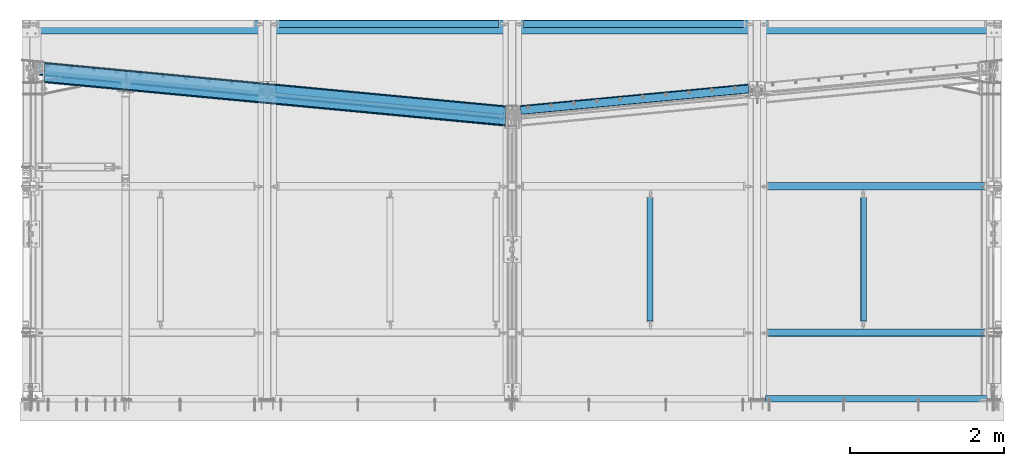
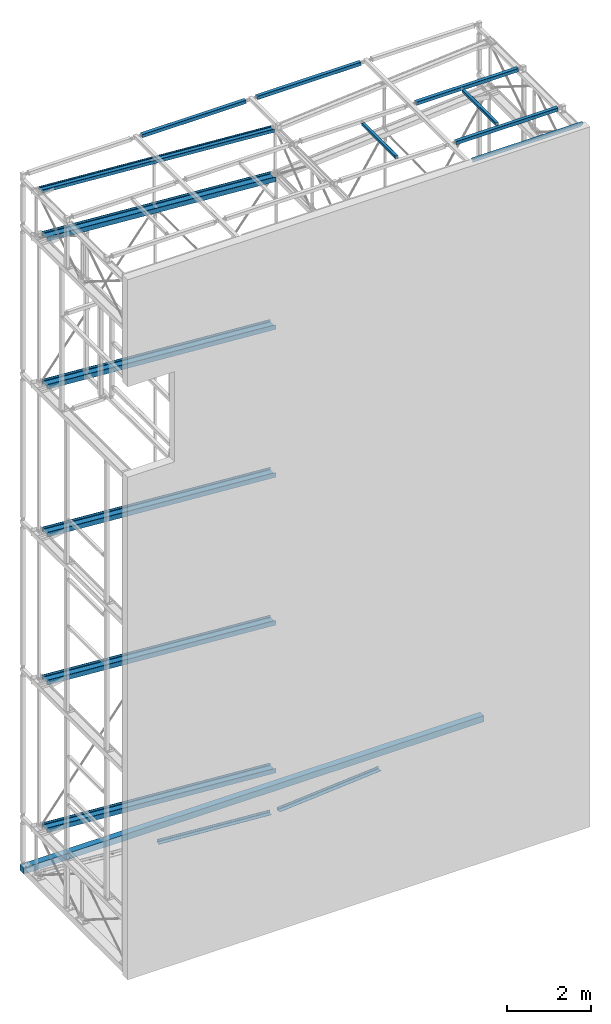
# One storey, part 37 of 271: 16 beams, 16 elements without a shape of their own.
"""IFC2X3 building model written with IfcOpenShell, lengths in millimetres."""

from ifc_helpers import new_model, si_unit, frame, origin_with_axes, origin_2d_with_axis, place, context, subcontext, project, spatial, rectangle, hollow_rectangle, i_section, l_section, extrude, clip, halfspace, material, type_object, element, aggregate, save


model = new_model("IFC2X3")

# Units and contexts
model_context = context("Model", 3, precision=1e-05, world=origin_with_axes())
body_context = subcontext(model_context, "Body", "Model", "MODEL_VIEW")
ifc_project = project(units=[si_unit("LENGTHUNIT", "METRE", prefix="MILLI"), si_unit("AREAUNIT", "SQUARE_METRE"), si_unit("VOLUMEUNIT", "CUBIC_METRE"), si_unit("MASSUNIT", "GRAM", prefix="KILO"), si_unit("TIMEUNIT", "SECOND"), si_unit("PLANEANGLEUNIT", "RADIAN"), si_unit("SOLIDANGLEUNIT", "STERADIAN"), si_unit("THERMODYNAMICTEMPERATUREUNIT", "DEGREE_CELSIUS"), si_unit("LUMINOUSINTENSITYUNIT", "LUMEN")], contexts=[model_context])

# Site, building, storey
site_placement = place(None, origin_with_axes())
site = spatial("IfcSite", under=ifc_project, at=site_placement, Name="Undefined", CompositionType="ELEMENT")
building_placement = place(site_placement, origin_with_axes())
building = spatial("IfcBuilding", under=site, at=building_placement, Name="Undefined", CompositionType="ELEMENT")
storey_placement = place(building_placement, origin_with_axes())
storey = spatial("IfcBuildingStorey", under=building, at=storey_placement, Name="Undefined", CompositionType="ELEMENT", Elevation=0.0)

# Assembly, beam
assembly_1_placement = place(storey_placement, origin_with_axes())
assembly_1 = element("IfcElementAssembly", 1, at=assembly_1_placement, inside=storey, Name="BELKA", AssemblyPlace="NOTDEFINED", PredefinedType="RIGID_FRAME")
ifc_material_1 = material(Name="STEEL/S355JR")
beam_type_1 = type_object("IfcBeamType", Name="L120*80*8", PredefinedType="NOTDEFINED")
beam_1_placement = place(assembly_1_placement, frame((9421.22553779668, 4069.72309871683, 24.8499999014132), z_axis=(0.0939127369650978, -0.995580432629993, 0.0), x_axis=(-0.995580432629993, -0.0939127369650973, 0.0)))
beam_1 = element("IfcBeam", 2, at=beam_1_placement, type_object=beam_type_1, material=ifc_material_1, Name="BELKA", ObjectType="L120*80*8", context=body_context, shape_type="SweptSolid", body=[
    extrude(l_section(Depth=120.0, Width=80.0, Thickness=8.0, FilletRadius=11.0, EdgeRadius=5.5, at=origin_2d_with_axis()), frame((2974.35098506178, 0.0, 4.12774118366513e-14), z_axis=(-1.0, 0.0, 1.38777878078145e-17), x_axis=(0.0, -1.0, 0.0)), (0.0, 0.0, 1.0), 2974.35),
])
aggregate(assembly_1, [beam_1])

assembly_2_placement = place(storey_placement, origin_with_axes())
assembly_2 = element("IfcElementAssembly", 3, at=assembly_2_placement, inside=storey, Name="BELKA", AssemblyPlace="NOTDEFINED", PredefinedType="RIGID_FRAME")
beam_2_placement = place(assembly_2_placement, frame((6241.62431291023, 3790.0610877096, 24.8499999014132), z_axis=(-0.0940044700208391, -0.995571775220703, 0.0), x_axis=(-0.995571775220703, 0.0940044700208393, 0.0)))
beam_2 = element("IfcBeam", 4, at=beam_2_placement, type_object=beam_type_1, material=ifc_material_1, Name="BELKA", ObjectType="L120*80*8", context=body_context, shape_type="SweptSolid", body=[
    extrude(l_section(Depth=120.0, Width=80.0, Thickness=8.0, FilletRadius=11.0, EdgeRadius=5.5, at=origin_2d_with_axis()), frame((2969.37312003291, 0.0, 0.0), z_axis=(-1.0, 0.0, 1.38777878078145e-17), x_axis=(0.0, -1.0, 0.0)), (0.0, 0.0, 1.0), 2969.37),
])
aggregate(assembly_2, [beam_2])

assembly_3_placement = place(storey_placement, origin_with_axes())
assembly_3 = element("IfcElementAssembly", 5, at=assembly_3_placement, inside=storey, Name="BELKA", AssemblyPlace="NOTDEFINED", PredefinedType="REINFORCEMENT_UNIT")
ifc_material_2 = material(Name="CONCRETE/C25/30")
beam_type_2 = type_object("IfcBeamType", Name="180*180", PredefinedType="NOTDEFINED")
beam_3_placement = place(assembly_3_placement, frame((-11.6243129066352, 4869.32498425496, -105.650000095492), z_axis=(0.0, 0.0, 1.0), x_axis=(1.0, 0.0, 0.0)))
beam_3 = element("IfcBeam", 6, at=beam_3_placement, type_object=beam_type_2, material=ifc_material_2, Name="BELKA", ObjectType="180*180", context=body_context, shape_type="SweptSolid", body=[
    extrude(rectangle(XDim=180.0, YDim=180.0, at=origin_2d_with_axis()), frame((12720.0, 0.0, 0.0), z_axis=(-1.0, 0.0, 1.38777878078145e-17), x_axis=(0.0, -1.0, 0.0)), (0.0, 0.0, 1.0), 12720.0),
])
aggregate(assembly_3, [beam_3])

assembly_4_placement = place(storey_placement, origin_with_axes())
assembly_4 = element("IfcElementAssembly", 7, at=assembly_4_placement, inside=storey, AssemblyPlace="NOTDEFINED", PredefinedType="RIGID_FRAME")
beam_type_3 = type_object("IfcBeamType", Name="SHS100*3", PredefinedType="NOTDEFINED")
beam_4_placement = place(assembly_4_placement, frame((6348.37568709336, 4909.32498425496, 20154.3499999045), z_axis=(0.0, 1.0, 0.0), x_axis=(1.0, 0.0, 0.0)))
beam_4 = element("IfcBeam", 8, at=beam_4_placement, type_object=beam_type_3, material=ifc_material_1, Name="RYGIEL ATTYKOWY", ObjectType="SHS100*3", context=body_context, shape_type="Clipping", body=[
    clip(clip(extrude(hollow_rectangle(XDim=100.0, YDim=100.0, WallThickness=3.0, InnerFilletRadius=3.0, OuterFilletRadius=6.0, at=origin_2d_with_axis()), frame((3180.0, 0.0, 0.0), z_axis=(-1.0, 0.0, 1.38777878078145e-17), x_axis=(0.0, -1.0, 0.0)), (0.0, 0.0, 1.0), 3180.0), halfspace(frame((3012.0, 0.0, -15.0), z_axis=(-1.0, 0.0, 1.38777878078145e-17), x_axis=(0.0, 1.0, 0.0)), True)), halfspace(frame((148.000000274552, 0.0, -15.0), z_axis=(1.0, 0.0, 0.0), x_axis=(0.0, -1.0, 0.0)), True)),
])
aggregate(assembly_4, [beam_4])

assembly_5_placement = place(storey_placement, origin_with_axes())
assembly_5 = element("IfcElementAssembly", 9, at=assembly_5_placement, inside=storey, AssemblyPlace="NOTDEFINED", PredefinedType="RIGID_FRAME")
beam_5_placement = place(assembly_5_placement, frame((9528.37568709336, 2799.32498425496, 20154.3499999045), z_axis=(0.0, 1.0, 0.0), x_axis=(1.0, 0.0, 0.0)))
beam_5 = element("IfcBeam", 10, at=beam_5_placement, type_object=beam_type_3, material=ifc_material_1, Name="RYGIEL", ObjectType="SHS100*3", context=body_context, shape_type="Clipping", body=[
    clip(clip(extrude(hollow_rectangle(XDim=100.0, YDim=100.0, WallThickness=3.0, InnerFilletRadius=3.0, OuterFilletRadius=6.0, at=origin_2d_with_axis()), frame((3180.0, 0.0, 0.0), z_axis=(-1.0, 0.0, 1.38777878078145e-17), x_axis=(0.0, -1.0, 0.0)), (0.0, 0.0, 1.0), 3180.0), halfspace(frame((2962.0, 0.0, -15.0), z_axis=(-1.0, 0.0, 1.38777878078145e-17), x_axis=(0.0, 1.0, 0.0)), True)), halfspace(frame((148.000000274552, 0.0, -15.0), z_axis=(1.0, 0.0, 0.0), x_axis=(0.0, -1.0, 0.0)), True)),
])
aggregate(assembly_5, [beam_5])

assembly_6_placement = place(storey_placement, origin_with_axes())
assembly_6 = element("IfcElementAssembly", 11, at=assembly_6_placement, inside=storey, AssemblyPlace="NOTDEFINED", PredefinedType="RIGID_FRAME")
beam_6_placement = place(assembly_6_placement, frame((9528.37568709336, 899.32498425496, 20154.3499999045), z_axis=(0.0, 1.0, 0.0), x_axis=(1.0, 0.0, 0.0)))
beam_6 = element("IfcBeam", 12, at=beam_6_placement, type_object=beam_type_3, material=ifc_material_1, Name="RYGIEL", ObjectType="SHS100*3", context=body_context, shape_type="Clipping", body=[
    clip(clip(extrude(hollow_rectangle(XDim=100.0, YDim=100.0, WallThickness=3.0, InnerFilletRadius=3.0, OuterFilletRadius=6.0, at=origin_2d_with_axis()), frame((3180.0, 0.0, 0.0), z_axis=(-1.0, 0.0, 1.38777878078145e-17), x_axis=(0.0, -1.0, 0.0)), (0.0, 0.0, 1.0), 3180.0), halfspace(frame((2962.0, 0.0, -15.0), z_axis=(-1.0, 0.0, 1.38777878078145e-17), x_axis=(0.0, 1.0, 0.0)), True)), halfspace(frame((148.000000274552, 0.0, -15.0), z_axis=(1.0, 0.0, 0.0), x_axis=(0.0, -1.0, 0.0)), True)),
])
aggregate(assembly_6, [beam_6])

assembly_7_placement = place(storey_placement, origin_with_axes())
assembly_7 = element("IfcElementAssembly", 13, at=assembly_7_placement, inside=storey, AssemblyPlace="NOTDEFINED", PredefinedType="RIGID_FRAME")
beam_7_placement = place(assembly_7_placement, frame((3168.37568709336, 4909.32498425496, 20154.3499999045), z_axis=(0.0, 1.0, 0.0), x_axis=(1.0, 0.0, 0.0)))
beam_7 = element("IfcBeam", 14, at=beam_7_placement, type_object=beam_type_3, material=ifc_material_1, Name="RYGIEL ATTYKOWY", ObjectType="SHS100*3", context=body_context, shape_type="Clipping", body=[
    clip(clip(extrude(hollow_rectangle(XDim=100.0, YDim=100.0, WallThickness=3.0, InnerFilletRadius=3.0, OuterFilletRadius=6.0, at=origin_2d_with_axis()), frame((3180.0, 0.0, 0.0), z_axis=(-1.0, 0.0, 1.38777878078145e-17), x_axis=(0.0, -1.0, 0.0)), (0.0, 0.0, 1.0), 3180.0), halfspace(frame((3012.0, 0.0, -15.0), z_axis=(-1.0, 0.0, 1.38777878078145e-17), x_axis=(0.0, 1.0, 0.0)), True)), halfspace(frame((148.000000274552, 0.0, -15.0), z_axis=(1.0, 0.0, 0.0), x_axis=(0.0, -1.0, 0.0)), True)),
])
aggregate(assembly_7, [beam_7])

assembly_8_placement = place(storey_placement, origin_with_axes())
assembly_8 = element("IfcElementAssembly", 15, at=assembly_8_placement, inside=storey, AssemblyPlace="NOTDEFINED", PredefinedType="RIGID_FRAME")
beam_type_4 = type_object("IfcBeamType", Name="SHS80*3", PredefinedType="NOTDEFINED")
beam_8_placement = place(assembly_8_placement, frame((10915.3756870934, 2847.32511981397, 20164.3499999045), z_axis=(-1.0, 0.0, 1.38777878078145e-17), x_axis=(0.0, -1.0, 0.0)))
beam_8 = element("IfcBeam", 16, at=beam_8_placement, type_object=beam_type_4, material=ifc_material_1, Name="SŁUPEK", ObjectType="SHS80*3", context=body_context, shape_type="Clipping", body=[
    clip(clip(extrude(hollow_rectangle(XDim=80.0, YDim=80.0, WallThickness=3.0, InnerFilletRadius=3.0, OuterFilletRadius=6.0, at=origin_2d_with_axis()), frame((1800.00027110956, 0.0, 0.0), z_axis=(-1.0, 0.0, 1.38777878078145e-17), x_axis=(0.0, -1.0, 0.0)), (0.0, 0.0, 1.0), 1800.0), halfspace(frame((1800.00013555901, 0.0, 15.0), z_axis=(-1.0, 0.0, 1.38777878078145e-17), x_axis=(0.0, -1.0, 0.0)), True)), halfspace(frame((196.000135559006, 0.0, 15.0), z_axis=(1.0, 0.0, 0.0), x_axis=(0.0, 1.0, 0.0)), True)),
])
aggregate(assembly_8, [beam_8])

assembly_9_placement = place(storey_placement, origin_with_axes())
assembly_9 = element("IfcElementAssembly", 17, at=assembly_9_placement, inside=storey, AssemblyPlace="NOTDEFINED", PredefinedType="RIGID_FRAME")
beam_9_placement = place(assembly_9_placement, frame((8141.37568709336, 2847.32511981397, 20164.3499999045), z_axis=(1.0, 0.0, 0.0), x_axis=(0.0, -1.0, 0.0)))
beam_9 = element("IfcBeam", 18, at=beam_9_placement, type_object=beam_type_4, material=ifc_material_1, Name="SŁUPEK", ObjectType="SHS80*3", context=body_context, shape_type="Clipping", body=[
    clip(clip(extrude(hollow_rectangle(XDim=80.0, YDim=80.0, WallThickness=3.0, InnerFilletRadius=3.0, OuterFilletRadius=6.0, at=origin_2d_with_axis()), frame((1800.00027110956, 0.0, 0.0), z_axis=(-1.0, 0.0, 1.38777878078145e-17), x_axis=(0.0, -1.0, 0.0)), (0.0, 0.0, 1.0), 1800.0), halfspace(frame((1800.00013555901, 0.0, 15.0), z_axis=(-1.0, 0.0, 1.38777878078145e-17), x_axis=(0.0, -1.0, 0.0)), True)), halfspace(frame((196.000135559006, 0.0, 15.0), z_axis=(1.0, 0.0, 0.0), x_axis=(0.0, 1.0, 0.0)), True)),
])
aggregate(assembly_9, [beam_9])

assembly_10_placement = place(storey_placement, origin_with_axes())
assembly_10 = element("IfcElementAssembly", 19, at=assembly_10_placement, inside=storey, AssemblyPlace="NOTDEFINED", PredefinedType="RIGID_FRAME")
beam_type_5 = type_object("IfcBeamType", Name="L80*80*6", PredefinedType="NOTDEFINED")
beam_10_placement = place(assembly_10_placement, frame((12708.3756870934, 39.3249842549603, 20164.3499999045), z_axis=(0.0, 1.0, 0.0), x_axis=(-1.0, 0.0, 1.38777878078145e-17)))
beam_10 = element("IfcBeam", 20, at=beam_10_placement, type_object=beam_type_5, material=ifc_material_1, Name="KĄTOWNIK", ObjectType="L80*80*6", context=body_context, shape_type="Clipping", body=[
    clip(extrude(l_section(Depth=80.0, Width=80.0, Thickness=6.0, FilletRadius=9.0, at=origin_2d_with_axis()), frame((3070.0, 0.0, 0.0), z_axis=(-1.0, 0.0, 1.38777878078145e-17), x_axis=(0.0, -1.0, 0.0)), (0.0, 0.0, 1.0), 3070.4), halfspace(frame((80.0, -40.0, 0.0), z_axis=(0.707106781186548, 0.707106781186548, 0.0), x_axis=(0.0, 0.0, 1.0)), True)),
])
aggregate(assembly_10, [beam_10])

assembly_11_placement = place(storey_placement, origin_with_axes())
assembly_11 = element("IfcElementAssembly", 21, at=assembly_11_placement, inside=storey, AssemblyPlace="NOTDEFINED", PredefinedType="RIGID_FRAME")
beam_type_6 = type_object("IfcBeamType", Name="IPE180", PredefinedType="NOTDEFINED")
beam_11_placement = place(assembly_11_placement, frame((5.28175418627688, 4348.52929478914, 20004.3499999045), z_axis=(0.0939225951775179, 0.99557950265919, -3.73312492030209e-15), x_axis=(0.995579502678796, -0.0939225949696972, 0.0)))
beam_11 = element("IfcBeam", 22, at=beam_11_placement, type_object=beam_type_6, material=ifc_material_1, Name="RYGIEL", ObjectType="IPE180", context=body_context, shape_type="Clipping", body=[
    clip(clip(extrude(i_section(OverallWidth=91.0, OverallDepth=180.0, WebThickness=5.300000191, FlangeThickness=8.0, FilletRadius=9.0, at=origin_2d_with_axis()), frame((6388.23919450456, 0.0, 0.0), z_axis=(-1.0, 0.0, 1.38777878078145e-17), x_axis=(0.0, -1.0, 0.0)), (0.0, 0.0, 1.0), 6388.24), halfspace(frame((6305.42005893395, 0.0, -90.0), z_axis=(-0.995579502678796, 0.0, -0.0939225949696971), x_axis=(0.0, 1.0, 0.0)), True)), halfspace(frame((189.384138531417, 0.0, -90.0000000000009), z_axis=(0.995579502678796, 0.0, 0.0939225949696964), x_axis=(0.0, -1.0, 0.0)), True)),
])
aggregate(assembly_11, [beam_11])

assembly_12_placement = place(storey_placement, origin_with_axes())
assembly_12 = element("IfcElementAssembly", 23, at=assembly_12_placement, inside=storey, AssemblyPlace="NOTDEFINED", PredefinedType="RIGID_FRAME")
beam_type_7 = type_object("IfcBeamType", Name="IPE270", PredefinedType="NOTDEFINED")
beam_12_placement = place(assembly_12_placement, frame((6361.05523768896, 3703.72821473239, 18644.3499999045), z_axis=(0.0939225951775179, 0.99557950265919, -3.73312492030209e-15), x_axis=(-0.995579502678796, 0.0939225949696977, 0.0)))
beam_12 = element("IfcBeam", 24, at=beam_12_placement, type_object=beam_type_7, material=ifc_material_1, Name="RYGIEL", ObjectType="IPE270", context=body_context, shape_type="Clipping", body=[
    clip(clip(extrude(i_section(OverallWidth=135.0, OverallDepth=270.0, WebThickness=6.599999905, FlangeThickness=10.19999981, FilletRadius=15.0, at=origin_2d_with_axis()), frame((6388.23919450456, 0.0, 0.0), z_axis=(-1.0, 0.0, 1.38777878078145e-17), x_axis=(0.0, -1.0, 0.0)), (0.0, 0.0, 1.0), 6388.24), halfspace(frame((6095.9471181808, -3.63797880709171e-12, -135.000000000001), z_axis=(-0.995579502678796, 0.0, 0.0939225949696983), x_axis=(0.0, 1.0, 0.0)), True)), halfspace(frame((87.8885112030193, -3.63797880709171e-12, -135.0), z_axis=(0.995579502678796, 0.0, -0.0939225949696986), x_axis=(0.0, -1.0, 0.0)), True)),
])
aggregate(assembly_12, [beam_12])

assembly_13_placement = place(storey_placement, origin_with_axes())
assembly_13 = element("IfcElementAssembly", 25, at=assembly_13_placement, inside=storey, AssemblyPlace="NOTDEFINED", PredefinedType="RIGID_FRAME")
beam_13_placement = place(assembly_13_placement, frame((6361.05523768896, 3703.72821473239, 1364.34999990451), z_axis=(0.0939225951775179, 0.99557950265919, -3.73312492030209e-15), x_axis=(-0.995579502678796, 0.0939225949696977, 0.0)))
beam_13 = element("IfcBeam", 26, at=beam_13_placement, type_object=beam_type_7, material=ifc_material_1, Name="RYGIEL", ObjectType="IPE270", context=body_context, shape_type="Clipping", body=[
    clip(clip(extrude(i_section(OverallWidth=135.0, OverallDepth=270.0, WebThickness=6.599999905, FlangeThickness=10.19999981, FilletRadius=15.0, at=origin_2d_with_axis()), frame((6388.23919450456, 0.0, 0.0), z_axis=(-1.0, 0.0, 1.38777878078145e-17), x_axis=(0.0, -1.0, 0.0)), (0.0, 0.0, 1.0), 6388.24), halfspace(frame((6095.9471181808, -3.63797880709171e-12, -135.000000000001), z_axis=(-0.995579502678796, 0.0, 0.0939225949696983), x_axis=(0.0, 1.0, 0.0)), True)), halfspace(frame((87.8885112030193, -3.63797880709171e-12, -135.0), z_axis=(0.995579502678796, 0.0, -0.0939225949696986), x_axis=(0.0, -1.0, 0.0)), True)),
])
aggregate(assembly_13, [beam_13])

assembly_14_placement = place(storey_placement, origin_with_axes())
assembly_14 = element("IfcElementAssembly", 27, at=assembly_14_placement, inside=storey, AssemblyPlace="NOTDEFINED", PredefinedType="RIGID_FRAME")
beam_14_placement = place(assembly_14_placement, frame((6361.05523768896, 3703.72821473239, 5684.34999990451), z_axis=(0.0939225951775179, 0.99557950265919, -3.73312492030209e-15), x_axis=(-0.995579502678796, 0.0939225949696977, 0.0)))
beam_14 = element("IfcBeam", 28, at=beam_14_placement, type_object=beam_type_7, material=ifc_material_1, Name="RYGIEL", ObjectType="IPE270", context=body_context, shape_type="Clipping", body=[
    clip(clip(extrude(i_section(OverallWidth=135.0, OverallDepth=270.0, WebThickness=6.599999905, FlangeThickness=10.19999981, FilletRadius=15.0, at=origin_2d_with_axis()), frame((6388.23919450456, 0.0, 0.0), z_axis=(-1.0, 0.0, 1.38777878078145e-17), x_axis=(0.0, -1.0, 0.0)), (0.0, 0.0, 1.0), 6388.24), halfspace(frame((6095.9471181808, -3.63797880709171e-12, -135.000000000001), z_axis=(-0.995579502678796, 0.0, 0.0939225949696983), x_axis=(0.0, 1.0, 0.0)), True)), halfspace(frame((87.8885112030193, -3.63797880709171e-12, -135.0), z_axis=(0.995579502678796, 0.0, -0.0939225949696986), x_axis=(0.0, -1.0, 0.0)), True)),
])
aggregate(assembly_14, [beam_14])

assembly_15_placement = place(storey_placement, origin_with_axes())
assembly_15 = element("IfcElementAssembly", 29, at=assembly_15_placement, inside=storey, AssemblyPlace="NOTDEFINED", PredefinedType="RIGID_FRAME")
beam_15_placement = place(assembly_15_placement, frame((6361.05523768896, 3703.72821473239, 10004.3499999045), z_axis=(0.0939225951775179, 0.99557950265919, -3.73312492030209e-15), x_axis=(-0.995579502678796, 0.0939225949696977, 0.0)))
beam_15 = element("IfcBeam", 30, at=beam_15_placement, type_object=beam_type_7, material=ifc_material_1, Name="RYGIEL", ObjectType="IPE270", context=body_context, shape_type="Clipping", body=[
    clip(clip(extrude(i_section(OverallWidth=135.0, OverallDepth=270.0, WebThickness=6.599999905, FlangeThickness=10.19999981, FilletRadius=15.0, at=origin_2d_with_axis()), frame((6388.23919450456, 0.0, 0.0), z_axis=(-1.0, 0.0, 1.38777878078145e-17), x_axis=(0.0, -1.0, 0.0)), (0.0, 0.0, 1.0), 6388.24), halfspace(frame((6095.9471181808, -3.63797880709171e-12, -135.000000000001), z_axis=(-0.995579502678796, 0.0, 0.0939225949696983), x_axis=(0.0, 1.0, 0.0)), True)), halfspace(frame((87.8885112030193, -3.63797880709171e-12, -135.0), z_axis=(0.995579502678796, 0.0, -0.0939225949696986), x_axis=(0.0, -1.0, 0.0)), True)),
])
aggregate(assembly_15, [beam_15])

assembly_16_placement = place(storey_placement, origin_with_axes())
assembly_16 = element("IfcElementAssembly", 31, at=assembly_16_placement, inside=storey, AssemblyPlace="NOTDEFINED", PredefinedType="RIGID_FRAME")
beam_16_placement = place(assembly_16_placement, frame((6361.05523768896, 3703.72821473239, 14324.3499999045), z_axis=(0.0939225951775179, 0.99557950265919, -3.73312492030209e-15), x_axis=(-0.995579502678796, 0.0939225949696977, 0.0)))
beam_16 = element("IfcBeam", 32, at=beam_16_placement, type_object=beam_type_7, material=ifc_material_1, Name="RYGIEL", ObjectType="IPE270", context=body_context, shape_type="Clipping", body=[
    clip(clip(extrude(i_section(OverallWidth=135.0, OverallDepth=270.0, WebThickness=6.599999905, FlangeThickness=10.19999981, FilletRadius=15.0, at=origin_2d_with_axis()), frame((6388.23919450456, 0.0, 0.0), z_axis=(-1.0, 0.0, 1.38777878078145e-17), x_axis=(0.0, -1.0, 0.0)), (0.0, 0.0, 1.0), 6388.24), halfspace(frame((6095.9471181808, -3.63797880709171e-12, -135.000000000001), z_axis=(-0.995579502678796, 0.0, 0.0939225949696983), x_axis=(0.0, 1.0, 0.0)), True)), halfspace(frame((87.8885112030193, -3.63797880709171e-12, -135.0), z_axis=(0.995579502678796, 0.0, -0.0939225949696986), x_axis=(0.0, -1.0, 0.0)), True)),
])
aggregate(assembly_16, [beam_16])

save(model, "model.ifc")
